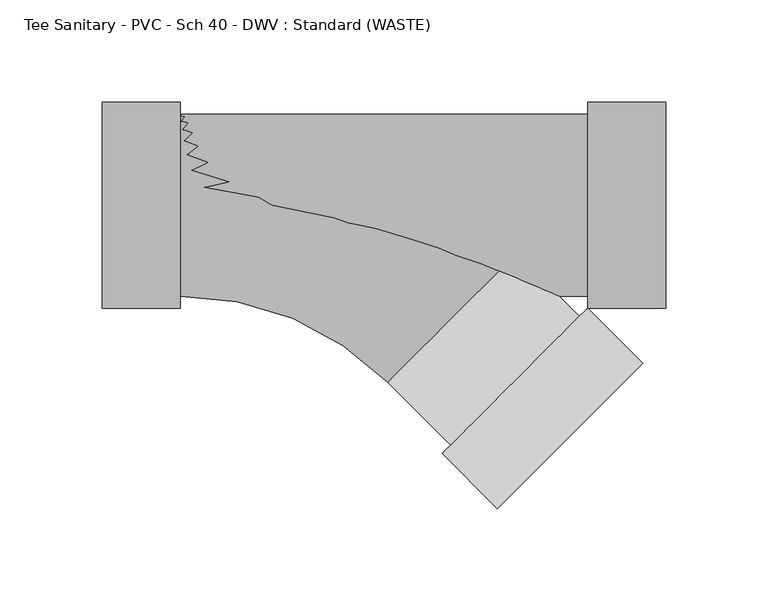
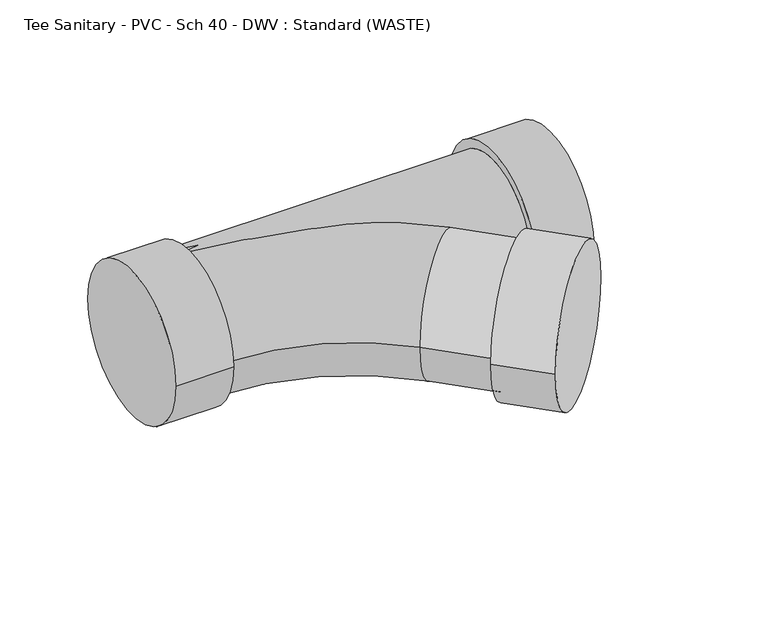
"""IFC4 building model written with IfcOpenShell, lengths in millimetres: pipe fitting geometry, Tee Sanitary - PVC - Sch 40 - DWV : Standard (WASTE)."""

from ifc_helpers import new_model, si_unit, point, frame, origin, place, context, project, spatial, circle_curve, ellipse_curve, trimmed, source, transform, mapped, element, save
from ifc_brep_helpers import plane_surface, cylinder_surface, revolved_surface, advanced_brep


def tee_sanitary_pvc_sch_40_dwv_standard_waste_3eb16a74(model_context):
    return source(origin(), model_context, "Body", "AdvancedBrep", [
        advanced_brep(
        [(-77.8002, -44.45, 0.0), (-77.8002, 44.45, 0.0), (23.5821526, -86.4439454, 0.0), (86.4439454, -23.5821526, 0.0), (148.2950758, -77.2073684, 0.0), (77.2073684, -148.2950758, 0.0), (121.3543075, -50.2666, 0.0), (50.2666, -121.3543075, 0.0), (117.2413502, -54.3795573, 0.0), (54.3795573, -117.2413502, 0.0)],
        [
            (0, 1, circle_curve(frame((-77.8002, 0.0, 0.0), z_axis=(-1.0, 0.0, 0.0), x_axis=(0.0, 1.0, 0.0)), 44.45)),
            (1, 0, circle_curve(frame((-77.8002, 0.0, 0.0), z_axis=(-1.0, 0.0, 0.0), x_axis=(0.0, 1.0, 0.0)), 44.45)),
            (0, 2, circle_curve(frame((-77.8002, -187.826298, 0.0), z_axis=(0.0, 0.0, -1.0), x_axis=(0.0, 1.0, 0.0)), 143.376298)),
            (2, 3, circle_curve(frame((55.013049, -55.013049, 0.0), z_axis=(-0.7071067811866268, 0.7071067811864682, 0.0), x_axis=(0.7071067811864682, 0.7071067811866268, 0.0)), 44.45)),
            (3, 1, circle_curve(frame((-77.8002, -187.826298, 0.0), z_axis=(0.0, 0.0, 1.0), x_axis=(0.0, 1.0, 0.0)), 232.276298)),
            (3, 2, circle_curve(frame((55.013049, -55.013049, 0.0), z_axis=(-0.7071067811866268, 0.7071067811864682, 0.0), x_axis=(0.7071067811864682, 0.7071067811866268, 0.0)), 44.45)),
            (4, 5, circle_curve(frame((112.7512221, -112.7512221, 0.0), z_axis=(0.7071067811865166, -0.7071067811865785, 0.0), x_axis=(-0.7071067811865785, -0.7071067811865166, 0.0)), 50.2666)),
            (5, 4, circle_curve(frame((112.7512221, -112.7512221, 0.0), z_axis=(0.7071067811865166, -0.7071067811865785, 0.0), x_axis=(-0.7071067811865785, -0.7071067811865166, 0.0)), 50.2666)),
            (6, 7, circle_curve(frame((85.8104537, -85.8104537, 0.0), z_axis=(-0.7071067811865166, 0.7071067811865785, 0.0), x_axis=(-0.7071067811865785, -0.7071067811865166, 0.0)), 50.2666)),
            (7, 6, circle_curve(frame((85.8104537, -85.8104537, 0.0), z_axis=(-0.7071067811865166, 0.7071067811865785, 0.0), x_axis=(-0.7071067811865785, -0.7071067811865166, 0.0)), 50.2666)),
            (8, 9, circle_curve(frame((85.8104537, -85.8104537, 0.0), z_axis=(0.7071067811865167, -0.7071067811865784, 0.0), x_axis=(-0.7071067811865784, -0.7071067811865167, 0.0)), 44.45)),
            (9, 8, circle_curve(frame((85.8104537, -85.8104537, 0.0), z_axis=(0.7071067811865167, -0.7071067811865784, 0.0), x_axis=(-0.7071067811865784, -0.7071067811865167, 0.0)), 44.45)),
            (4, 6),
            (7, 5),
            (2, 9),
            (8, 3),
        ],
        [
            plane_surface(frame((-77.8002, 0.0, 0.0), z_axis=(-1.0, 0.0, 0.0), x_axis=(0.0, 0.0, 1.0))),
            revolved_surface(trimmed(ellipse_curve(frame((-77.8002, 0.0, 0.0), z_axis=(-1.0, 0.0, 0.0), x_axis=(0.0, 1.0, 0.0)), 44.45, 44.45), [point((-77.8002, -44.45, 0.0))], [point((-77.8002, 44.45, 0.0))], True, "CARTESIAN"), (-77.8002, -187.826298, 0.0), (0.0, 0.0, -1.0)),
            revolved_surface(trimmed(ellipse_curve(frame((-77.8002, 0.0, 0.0), z_axis=(-1.0, 0.0, 0.0), x_axis=(0.0, 1.0, 0.0)), 44.45, 44.45), [point((-77.8002, 44.45, 0.0))], [point((-77.8002, -44.45, 0.0))], True, "CARTESIAN"), (-77.8002, -187.826298, 0.0), (0.0, 0.0, -1.0)),
            plane_surface(frame((112.7512221, -112.7512221, 0.0), z_axis=(0.7071067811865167, -0.7071067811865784, 0.0), x_axis=(0.0, 0.0, 1.0))),
            plane_surface(frame((85.8104537, -85.8104537, 0.0), z_axis=(-0.7071067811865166, 0.7071067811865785, 0.0), x_axis=(0.0, 0.0, 1.0))),
            cylinder_surface(frame((112.7512221, -112.7512221, 0.0), z_axis=(0.7071067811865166, -0.7071067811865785, 0.0), x_axis=(-0.7071067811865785, -0.7071067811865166, 0.0)), 50.2666),
            cylinder_surface(frame((112.7512221, -112.7512221, 0.0), z_axis=(0.7071067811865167, -0.7071067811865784, 0.0), x_axis=(-0.7071067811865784, -0.7071067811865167, 0.0)), 44.45),
        ],
        [
            (0, [[1, 2]]),
            (1, [[-1, 3, 4, 5]]),
            (2, [[-2, -5, 6, -3]]),
            (3, [[7, 8]]),
            (4, [[9, 10], [11, 12]]),
            (5, [[-7, 13, -10, 14]]),
            (5, [[-8, -14, -9, -13]]),
            (6, [[-4, 15, -11, 16]]),
            (6, [[-6, -16, -12, -15]]),
        ],
    ),
        advanced_brep(
        [(148.2950758, -77.2073684, 0.0), (77.2073684, -148.2950758, 0.0), (-77.8002, -44.45, 0.0), (-77.8002, 44.45, 0.0), (23.5821526, -86.4439454, 0.0), (86.4439454, -23.5821526, 0.0), (121.3543075, -50.2666, 0.0), (50.2666, -121.3543075, 0.0), (117.2413502, -54.3795573, 0.0), (54.3795573, -117.2413502, 0.0)],
        [
            (0, 1, circle_curve(frame((112.7512221, -112.7512221, 0.0), z_axis=(0.7071067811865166, -0.7071067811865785, 0.0), x_axis=(-0.7071067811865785, -0.7071067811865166, 0.0)), 50.2666)),
            (1, 0, circle_curve(frame((112.7512221, -112.7512221, 0.0), z_axis=(0.7071067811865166, -0.7071067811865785, 0.0), x_axis=(-0.7071067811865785, -0.7071067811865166, 0.0)), 50.2666)),
            (2, 3, circle_curve(frame((-77.8002, 0.0, 0.0), z_axis=(-1.0, 0.0, 0.0), x_axis=(0.0, 1.0, 0.0)), 44.45)),
            (3, 2, circle_curve(frame((-77.8002, 0.0, 0.0), z_axis=(-1.0, 0.0, 0.0), x_axis=(0.0, 1.0, 0.0)), 44.45)),
            (2, 4, circle_curve(frame((-77.8002, -187.826298, 0.0), z_axis=(0.0, 0.0, -1.0), x_axis=(0.0, 1.0, 0.0)), 143.376298)),
            (4, 5, circle_curve(frame((55.013049, -55.013049, 0.0), z_axis=(-0.7071067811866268, 0.7071067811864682, 0.0), x_axis=(0.7071067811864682, 0.7071067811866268, 0.0)), 44.45)),
            (5, 3, circle_curve(frame((-77.8002, -187.826298, 0.0), z_axis=(0.0, 0.0, 1.0), x_axis=(0.0, 1.0, 0.0)), 232.276298)),
            (5, 4, circle_curve(frame((55.013049, -55.013049, 0.0), z_axis=(-0.7071067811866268, 0.7071067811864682, 0.0), x_axis=(0.7071067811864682, 0.7071067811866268, 0.0)), 44.45)),
            (6, 7, circle_curve(frame((85.8104537, -85.8104537, 0.0), z_axis=(-0.7071067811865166, 0.7071067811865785, 0.0), x_axis=(-0.7071067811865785, -0.7071067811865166, 0.0)), 50.2666)),
            (7, 6, circle_curve(frame((85.8104537, -85.8104537, 0.0), z_axis=(-0.7071067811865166, 0.7071067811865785, 0.0), x_axis=(-0.7071067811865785, -0.7071067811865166, 0.0)), 50.2666)),
            (8, 9, circle_curve(frame((85.8104537, -85.8104537, 0.0), z_axis=(0.7071067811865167, -0.7071067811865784, 0.0), x_axis=(-0.7071067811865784, -0.7071067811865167, 0.0)), 44.45)),
            (9, 8, circle_curve(frame((85.8104537, -85.8104537, 0.0), z_axis=(0.7071067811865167, -0.7071067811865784, 0.0), x_axis=(-0.7071067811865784, -0.7071067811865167, 0.0)), 44.45)),
            (0, 6),
            (7, 1),
            (4, 9),
            (8, 5),
        ],
        [
            plane_surface(frame((112.7512221, -112.7512221, 0.0), z_axis=(0.7071067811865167, -0.7071067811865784, 0.0), x_axis=(0.0, 0.0, 1.0))),
            plane_surface(frame((-77.8002, 0.0, 0.0), z_axis=(-1.0, 0.0, 0.0), x_axis=(0.0, 0.0, 1.0))),
            revolved_surface(trimmed(ellipse_curve(frame((-77.8002, 0.0, 0.0), z_axis=(-1.0, 0.0, 0.0), x_axis=(0.0, 1.0, 0.0)), 44.45, 44.45), [point((-77.8002, -44.45, 0.0))], [point((-77.8002, 44.45, 0.0))], True, "CARTESIAN"), (-77.8002, -187.826298, 0.0), (0.0, 0.0, -1.0)),
            revolved_surface(trimmed(ellipse_curve(frame((-77.8002, 0.0, 0.0), z_axis=(-1.0, 0.0, 0.0), x_axis=(0.0, 1.0, 0.0)), 44.45, 44.45), [point((-77.8002, 44.45, 0.0))], [point((-77.8002, -44.45, 0.0))], True, "CARTESIAN"), (-77.8002, -187.826298, 0.0), (0.0, 0.0, -1.0)),
            plane_surface(frame((85.8104537, -85.8104537, 0.0), z_axis=(-0.7071067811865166, 0.7071067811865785, 0.0), x_axis=(0.0, 0.0, 1.0))),
            cylinder_surface(frame((112.7512221, -112.7512221, 0.0), z_axis=(0.7071067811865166, -0.7071067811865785, 0.0), x_axis=(-0.7071067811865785, -0.7071067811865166, 0.0)), 50.2666),
            cylinder_surface(frame((112.7512221, -112.7512221, 0.0), z_axis=(0.7071067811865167, -0.7071067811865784, 0.0), x_axis=(-0.7071067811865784, -0.7071067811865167, 0.0)), 44.45),
        ],
        [
            (0, [[1, 2]]),
            (1, [[3, 4]]),
            (2, [[-3, 5, 6, 7]]),
            (3, [[-4, -7, 8, -5]]),
            (4, [[9, 10], [11, 12]]),
            (5, [[-1, 13, -10, 14]]),
            (5, [[-2, -14, -9, -13]]),
            (6, [[-6, 15, -11, 16]]),
            (6, [[-8, -16, -12, -15]]),
        ],
    ),
        advanced_brep(
        [(-77.8002, -44.45, 0.0), (121.3543075, -44.45, 0.0), (121.3543075, 44.45, 0.0), (-77.8002, 44.45, 0.0), (121.3543075, -50.2666, 0.0), (121.3543075, 50.2666, 0.0), (159.4543075, -50.2666, 0.0), (159.4543075, 50.2666, 0.0), (-115.9002, -50.2666, 0.0), (-115.9002, 50.2666, 0.0), (-77.8002, -50.2666, 0.0), (-77.8002, 50.2666, 0.0)],
        [
            (0, 1),
            (1, 2, circle_curve(frame((121.3543075, 0.0, 0.0), z_axis=(-1.0, 0.0, 0.0), x_axis=(0.0, 1.0, 0.0)), 44.45)),
            (2, 3),
            (3, 0, circle_curve(frame((-77.8002, 0.0, 0.0), z_axis=(1.0, 0.0, 0.0), x_axis=(0.0, 1.0, 0.0)), 44.45)),
            (0, 3, circle_curve(frame((-77.8002, 0.0, 0.0), z_axis=(1.0, 0.0, 0.0), x_axis=(0.0, 1.0, 0.0)), 44.45)),
            (2, 1, circle_curve(frame((121.3543075, 0.0, 0.0), z_axis=(-1.0, 0.0, 0.0), x_axis=(0.0, 1.0, 0.0)), 44.45)),
            (4, 5, circle_curve(frame((121.3543075, 0.0, 0.0), z_axis=(-1.0, 0.0, 0.0), x_axis=(0.0, 1.0, 0.0)), 50.2666)),
            (5, 4, circle_curve(frame((121.3543075, 0.0, 0.0), z_axis=(-1.0, 0.0, 0.0), x_axis=(0.0, 1.0, 0.0)), 50.2666)),
            (6, 7, circle_curve(frame((159.4543075, 0.0, 0.0), z_axis=(1.0, 0.0, 0.0), x_axis=(0.0, 1.0, 0.0)), 50.2666)),
            (7, 6, circle_curve(frame((159.4543075, 0.0, 0.0), z_axis=(1.0, 0.0, 0.0), x_axis=(0.0, 1.0, 0.0)), 50.2666)),
            (4, 6),
            (7, 5),
            (8, 9, circle_curve(frame((-115.9002, 0.0, 0.0), z_axis=(-1.0, 0.0, 0.0), x_axis=(0.0, 1.0, 0.0)), 50.2666)),
            (9, 8, circle_curve(frame((-115.9002, 0.0, 0.0), z_axis=(-1.0, 0.0, 0.0), x_axis=(0.0, 1.0, 0.0)), 50.2666)),
            (10, 11, circle_curve(frame((-77.8002, 0.0, 0.0), z_axis=(1.0, 0.0, 0.0), x_axis=(0.0, 1.0, 0.0)), 50.2666)),
            (11, 10, circle_curve(frame((-77.8002, 0.0, 0.0), z_axis=(1.0, 0.0, 0.0), x_axis=(0.0, 1.0, 0.0)), 50.2666)),
            (8, 10),
            (11, 9),
        ],
        [
            cylinder_surface(frame((-77.8002, 0.0, 0.0), z_axis=(-1.0, 0.0, 0.0), x_axis=(0.0, 1.0, 0.0)), 44.45),
            plane_surface(frame((121.3543075, 0.0, 0.0), z_axis=(-1.0, 0.0, 0.0), x_axis=(0.0, 0.0, 1.0))),
            plane_surface(frame((159.4543075, 0.0, 0.0), z_axis=(1.0, 0.0, 0.0), x_axis=(0.0, 0.0, 1.0))),
            cylinder_surface(frame((121.3543075, 0.0, 0.0), z_axis=(-1.0, 0.0, 0.0), x_axis=(0.0, 1.0, 0.0)), 50.2666),
            plane_surface(frame((-115.9002, 0.0, 0.0), z_axis=(-1.0, 0.0, 0.0), x_axis=(0.0, 0.0, 1.0))),
            plane_surface(frame((-77.8002, 0.0, 0.0), z_axis=(1.0, 0.0, 0.0), x_axis=(0.0, 0.0, 1.0))),
            cylinder_surface(frame((-115.9002, 0.0, 0.0), z_axis=(-1.0, 0.0, 0.0), x_axis=(0.0, 1.0, 0.0)), 50.2666),
        ],
        [
            (0, [[1, 2, 3, 4]]),
            (0, [[-1, 5, -3, 6]]),
            (1, [[7, 8], [-2, -6]]),
            (2, [[9, 10]]),
            (3, [[-7, 11, -10, 12]]),
            (3, [[-8, -12, -9, -11]]),
            (4, [[13, 14]]),
            (5, [[15, 16], [-4, -5]]),
            (6, [[-13, 17, -16, 18]]),
            (6, [[-14, -18, -15, -17]]),
        ],
    ),
        advanced_brep(
        [(-115.9002, -50.2666, 0.0), (-115.9002, 50.2666, 0.0), (-77.8002, -50.2666, 0.0), (-77.8002, 50.2666, 0.0), (-77.8002, -44.45, 0.0), (-77.8002, 44.45, 0.0), (121.3543075, -44.45, 0.0), (121.3543075, 44.45, 0.0), (159.4543075, 50.2666, 0.0), (159.4543075, -50.2666, 0.0), (121.3543075, 50.2666, 0.0), (121.3543075, -50.2666, 0.0)],
        [
            (0, 1, circle_curve(frame((-115.9002, 0.0, 0.0), z_axis=(-1.0, 0.0, 0.0), x_axis=(0.0, 1.0, 0.0)), 50.2666)),
            (1, 0, circle_curve(frame((-115.9002, 0.0, 0.0), z_axis=(-1.0, 0.0, 0.0), x_axis=(0.0, 1.0, 0.0)), 50.2666)),
            (2, 3, circle_curve(frame((-77.8002, 0.0, 0.0), z_axis=(1.0, 0.0, 0.0), x_axis=(0.0, 1.0, 0.0)), 50.2666)),
            (3, 2, circle_curve(frame((-77.8002, 0.0, 0.0), z_axis=(1.0, 0.0, 0.0), x_axis=(0.0, 1.0, 0.0)), 50.2666)),
            (4, 5, circle_curve(frame((-77.8002, 0.0, 0.0), z_axis=(-1.0, 0.0, 0.0), x_axis=(0.0, 1.0, 0.0)), 44.45)),
            (5, 4, circle_curve(frame((-77.8002, 0.0, 0.0), z_axis=(-1.0, 0.0, 0.0), x_axis=(0.0, 1.0, 0.0)), 44.45)),
            (0, 2),
            (3, 1),
            (4, 6),
            (6, 7, circle_curve(frame((121.3543075, 0.0, 0.0), z_axis=(-1.0, 0.0, 0.0), x_axis=(0.0, 1.0, 0.0)), 44.45)),
            (7, 5),
            (7, 6, circle_curve(frame((121.3543075, 0.0, 0.0), z_axis=(-1.0, 0.0, 0.0), x_axis=(0.0, 1.0, 0.0)), 44.45)),
            (8, 9, circle_curve(frame((159.4543075, 0.0, 0.0), z_axis=(1.0, 0.0, 0.0), x_axis=(0.0, -1.0, 0.0)), 50.2666)),
            (9, 8, circle_curve(frame((159.4543075, 0.0, 0.0), z_axis=(1.0, 0.0, 0.0), x_axis=(0.0, -1.0, 0.0)), 50.2666)),
            (10, 11, circle_curve(frame((121.3543075, 0.0, 0.0), z_axis=(-1.0, 0.0, 0.0), x_axis=(0.0, -1.0, 0.0)), 50.2666)),
            (11, 10, circle_curve(frame((121.3543075, 0.0, 0.0), z_axis=(-1.0, 0.0, 0.0), x_axis=(0.0, -1.0, 0.0)), 50.2666)),
            (8, 10),
            (11, 9),
        ],
        [
            plane_surface(frame((-115.9002, 0.0, 0.0), z_axis=(-1.0, 0.0, 0.0), x_axis=(0.0, 0.0, 1.0))),
            plane_surface(frame((-77.8002, 0.0, 0.0), z_axis=(1.0, 0.0, 0.0), x_axis=(0.0, 0.0, 1.0))),
            cylinder_surface(frame((-115.9002, 0.0, 0.0), z_axis=(-1.0, 0.0, 0.0), x_axis=(0.0, 1.0, 0.0)), 50.2666),
            cylinder_surface(frame((-77.8002, 0.0, 0.0), z_axis=(-1.0, 0.0, 0.0), x_axis=(0.0, 1.0, 0.0)), 44.45),
            plane_surface(frame((159.4543075, 0.0, 0.0), z_axis=(1.0, 0.0, 0.0), x_axis=(0.0, 0.0, 1.0))),
            plane_surface(frame((121.3543075, 0.0, 0.0), z_axis=(-1.0, 0.0, 0.0), x_axis=(0.0, 0.0, 1.0))),
            cylinder_surface(frame((159.4543075, 0.0, 0.0), z_axis=(1.0, 0.0, 0.0), x_axis=(0.0, -1.0, 0.0)), 50.2666),
        ],
        [
            (0, [[1, 2]]),
            (1, [[3, 4], [5, 6]]),
            (2, [[-1, 7, -4, 8]]),
            (2, [[-2, -8, -3, -7]]),
            (3, [[9, 10, 11, -5]]),
            (3, [[-9, -6, -11, 12]]),
            (4, [[13, 14]]),
            (5, [[15, 16], [-10, -12]]),
            (6, [[-13, 17, -16, 18]]),
            (6, [[-14, -18, -15, -17]]),
        ],
    ),
    ])


if __name__ == "__main__":
    model = new_model("IFC4")
    model_context = context("Model", 3, world=origin())
    ifc_project = project(units=[si_unit("LENGTHUNIT", "METRE", prefix="MILLI")], contexts=[model_context])
    site = spatial("IfcSite", under=ifc_project)
    building = spatial("IfcBuilding", under=site)
    placement = place(None, origin())
    tee_sanitary_pvc_sch_40_dwv_standard_waste_shape = tee_sanitary_pvc_sch_40_dwv_standard_waste_3eb16a74(model_context)
    element("IfcPipeFitting", 1, ObjectType="Tee Sanitary - PVC - Sch 40 - DWV : Standard (WASTE)", at=placement, inside=building, context=model_context, shape_type="MappedRepresentation", body=[
        mapped(tee_sanitary_pvc_sch_40_dwv_standard_waste_shape, transform((0.0, 0.0, 0.0), x_axis=(1.0, 0.0, 0.0), y_axis=(0.0, 1.0, 0.0), z_axis=(0.0, 0.0, 1.0))),
    ])
    save(model, "model.ifc")
